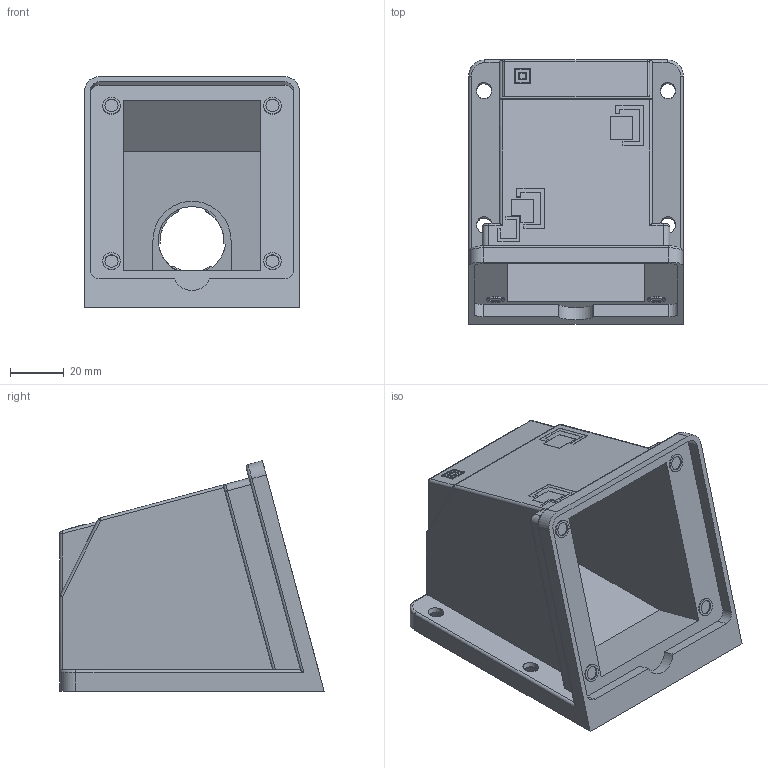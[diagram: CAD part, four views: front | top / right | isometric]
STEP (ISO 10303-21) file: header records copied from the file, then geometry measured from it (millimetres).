
FILE_DESCRIPTION(('FreeCAD Model'),'2;1');
FILE_NAME('Open CASCADE Shape Model','2026-02-04T11:28:55',(''),(''), 'Open CASCADE STEP processor 7.8','FreeCAD','Unknown');
FILE_SCHEMA(('AUTOMOTIVE_DESIGN { 1 0 10303 214 1 1 1 1 }'));
Length unit declared in the file: millimetre
Products named in the file (1): Estrutura corpo
Bounding box: 80 x 98.5 x 85.97 mm (x, y, z)
Volume: 85310.5 mm3; surface area: 63624.9 mm2
Topology: 1 solids, 1 shells, 365 faces, 945 edges, 612 vertices
Faces by surface type: plane 202, cylinder 95, bspline 54, torus 8, sphere 6
Entity records: 18947 total; most frequent: CARTESIAN_POINT 10329, ORIENTED_EDGE 1890, DIRECTION 1583, EDGE_CURVE 945, VERTEX_POINT 612, LINE 571, VECTOR 571, AXIS2_PLACEMENT_3D 506
